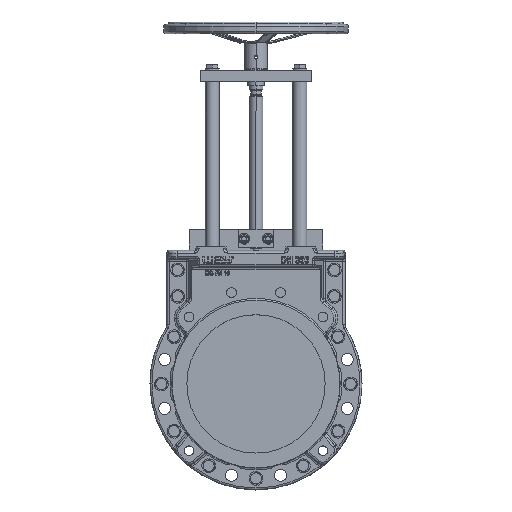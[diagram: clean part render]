
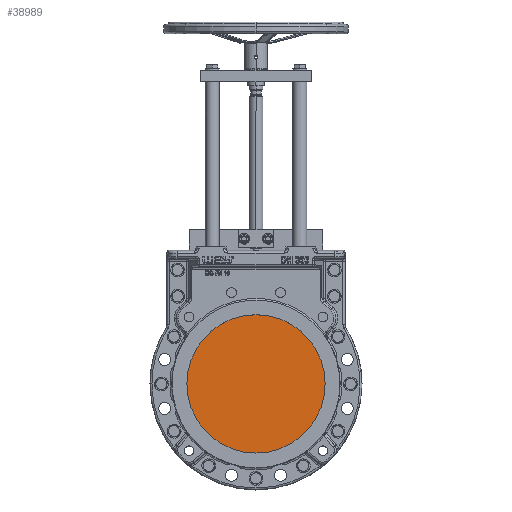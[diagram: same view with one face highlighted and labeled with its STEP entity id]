
A CAD part, top view. The second image highlights one B-rep face of the part: STEP entity #38989.
In plain terms, the highlighted planar face has unit normal (0, 0, 1).
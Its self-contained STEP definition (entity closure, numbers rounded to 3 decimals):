
#8230 = CARTESIAN_POINT ( 'NONE',  ( 150., 0., -0.25 ) ) ;
#9194 = AXIS2_PLACEMENT_3D ( 'NONE', #88354, #29697, #98206 ) ;
#14488 = CARTESIAN_POINT ( 'NONE',  ( -150., 0., -0.25 ) ) ;
#29697 = DIRECTION ( 'NONE',  ( 0., 0., 1. ) ) ;
#37350 = FACE_OUTER_BOUND ( 'NONE', #105049, .T. ) ;
#38989 = ADVANCED_FACE ( 'NONE', ( #37350 ), #46442, .T. ) ;
#39676 = EDGE_CURVE ( 'NONE', #67021, #50268, #59938, .T. ) ;
#46442 = PLANE ( 'NONE',  #47511 ) ;
#47511 = AXIS2_PLACEMENT_3D ( 'NONE', #104796, #56270, #124954 ) ;
#50268 = VERTEX_POINT ( 'NONE', #14488 ) ;
#52851 = CARTESIAN_POINT ( 'NONE',  ( 0., 0., -0.25 ) ) ;
#56270 = DIRECTION ( 'NONE',  ( 0., 0., 1. ) ) ;
#57148 = ORIENTED_EDGE ( 'NONE', *, *, #61039, .T. ) ;
#59938 = CIRCLE ( 'NONE', #9194, 150. ) ;
#61039 = EDGE_CURVE ( 'NONE', #50268, #67021, #74721, .T. ) ;
#62735 = DIRECTION ( 'NONE',  ( 1., 0., 0. ) ) ;
#67021 = VERTEX_POINT ( 'NONE', #8230 ) ;
#72163 = ORIENTED_EDGE ( 'NONE', *, *, #39676, .T. ) ;
#74721 = CIRCLE ( 'NONE', #91980, 150. ) ;
#88354 = CARTESIAN_POINT ( 'NONE',  ( 0., 0., -0.25 ) ) ;
#91980 = AXIS2_PLACEMENT_3D ( 'NONE', #52851, #121517, #62735 ) ;
#98206 = DIRECTION ( 'NONE',  ( 1., 0., 0. ) ) ;
#104796 = CARTESIAN_POINT ( 'NONE',  ( 0., 0., -0.25 ) ) ;
#105049 = EDGE_LOOP ( 'NONE', ( #72163, #57148 ) ) ;
#121517 = DIRECTION ( 'NONE',  ( 0., 0., 1. ) ) ;
#124954 = DIRECTION ( 'NONE',  ( 1., 0., 0. ) ) ;
